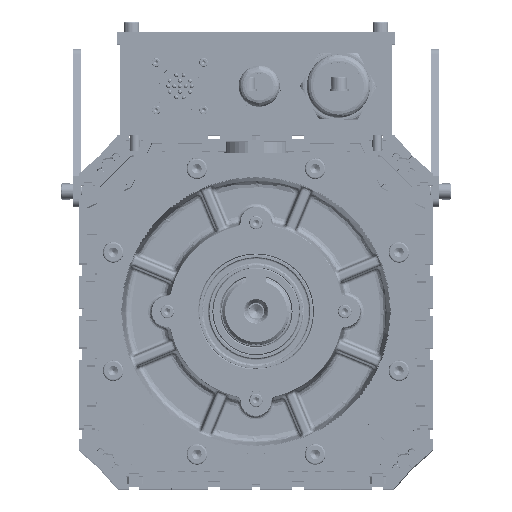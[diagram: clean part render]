
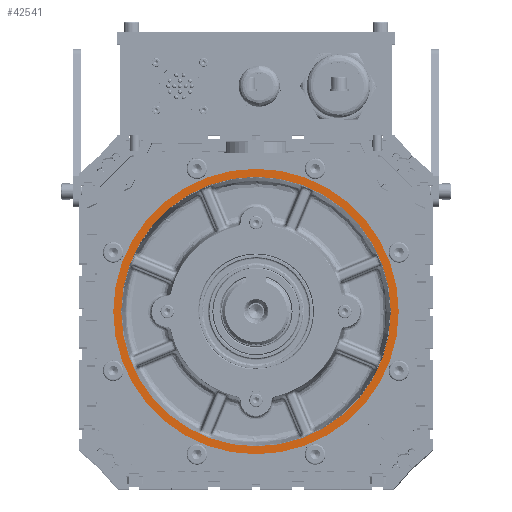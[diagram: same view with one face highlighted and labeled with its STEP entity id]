
A CAD part, top view. The second image highlights one B-rep face of the part: STEP entity #42541.
In plain terms, the highlighted planar face has unit normal (0, 0, 1) as drawn and (0, 0, -1) by its records, which use the part's own axes.
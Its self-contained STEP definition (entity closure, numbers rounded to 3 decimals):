
#19586 = DIRECTION ( 'NONE',  ( -1., 0., 0. ) ) ;
#24647 = DIRECTION ( 'NONE',  ( 0., 0., 1. ) ) ;
#30535 = ORIENTED_EDGE ( 'NONE', *, *, #171895, .F. ) ;
#39052 = VERTEX_POINT ( 'NONE', #136810 ) ;
#39727 = FACE_BOUND ( 'NONE', #179849, .T. ) ;
#40399 = DIRECTION ( 'NONE',  ( -1., 0., 0. ) ) ;
#41725 = CIRCLE ( 'NONE', #103488, 90. ) ;
#42541 = ADVANCED_FACE ( 'NONE', ( #180708, #39727 ), #156288, .F. ) ;
#46365 = DIRECTION ( 'NONE',  ( 0., 0., 1. ) ) ;
#53361 = CARTESIAN_POINT ( 'NONE',  ( -28.364, -115.305, 205. ) ) ;
#58529 = CARTESIAN_POINT ( 'NONE',  ( -118.364, -25.305, 205. ) ) ;
#58849 = CIRCLE ( 'NONE', #150535, 85. ) ;
#68188 = VERTEX_POINT ( 'NONE', #58529 ) ;
#69658 = CARTESIAN_POINT ( 'NONE',  ( -28.364, -25.305, 205. ) ) ;
#72785 = VERTEX_POINT ( 'NONE', #140956 ) ;
#78763 = CARTESIAN_POINT ( 'NONE',  ( -28.364, -25.305, 205. ) ) ;
#93520 = VERTEX_POINT ( 'NONE', #126241 ) ;
#97008 = DIRECTION ( 'NONE',  ( 0., 0., -1. ) ) ;
#98875 = ORIENTED_EDGE ( 'NONE', *, *, #123242, .F. ) ;
#99078 = CARTESIAN_POINT ( 'NONE',  ( -28.364, -25.305, 205. ) ) ;
#103488 = AXIS2_PLACEMENT_3D ( 'NONE', #99078, #142847, #130806 ) ;
#104818 = ORIENTED_EDGE ( 'NONE', *, *, #105730, .F. ) ;
#104820 = CIRCLE ( 'NONE', #143739, 90. ) ;
#105730 = EDGE_CURVE ( 'NONE', #72785, #93520, #58849, .T. ) ;
#123242 = EDGE_CURVE ( 'NONE', #39052, #68188, #41725, .T. ) ;
#125865 = ORIENTED_EDGE ( 'NONE', *, *, #165094, .F. ) ;
#126241 = CARTESIAN_POINT ( 'NONE',  ( 56.636, -25.305, 205. ) ) ;
#129042 = EDGE_LOOP ( 'NONE', ( #30535, #98875 ) ) ;
#130806 = DIRECTION ( 'NONE',  ( -1., 0., 0. ) ) ;
#136810 = CARTESIAN_POINT ( 'NONE',  ( 61.636, -25.305, 205. ) ) ;
#140391 = DIRECTION ( 'NONE',  ( 1., 0., 0. ) ) ;
#140956 = CARTESIAN_POINT ( 'NONE',  ( -113.364, -25.305, 205. ) ) ;
#141448 = AXIS2_PLACEMENT_3D ( 'NONE', #69658, #97008, #40399 ) ;
#142847 = DIRECTION ( 'NONE',  ( 0., 0., 1. ) ) ;
#143739 = AXIS2_PLACEMENT_3D ( 'NONE', #149261, #46365, #161999 ) ;
#149261 = CARTESIAN_POINT ( 'NONE',  ( -28.364, -25.305, 205. ) ) ;
#150535 = AXIS2_PLACEMENT_3D ( 'NONE', #78763, #167000, #19586 ) ;
#156288 = PLANE ( 'NONE',  #168583 ) ;
#161999 = DIRECTION ( 'NONE',  ( -1., 0., 0. ) ) ;
#165094 = EDGE_CURVE ( 'NONE', #93520, #72785, #170759, .T. ) ;
#167000 = DIRECTION ( 'NONE',  ( 0., 0., -1. ) ) ;
#168583 = AXIS2_PLACEMENT_3D ( 'NONE', #53361, #24647, #140391 ) ;
#170759 = CIRCLE ( 'NONE', #141448, 85. ) ;
#171895 = EDGE_CURVE ( 'NONE', #68188, #39052, #104820, .T. ) ;
#179849 = EDGE_LOOP ( 'NONE', ( #104818, #125865 ) ) ;
#180708 = FACE_OUTER_BOUND ( 'NONE', #129042, .T. ) ;
